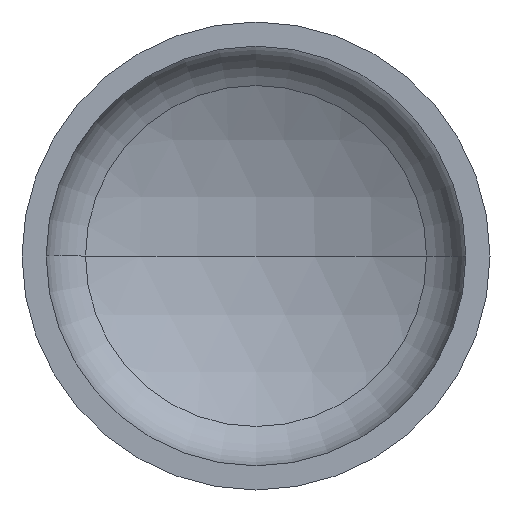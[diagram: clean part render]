
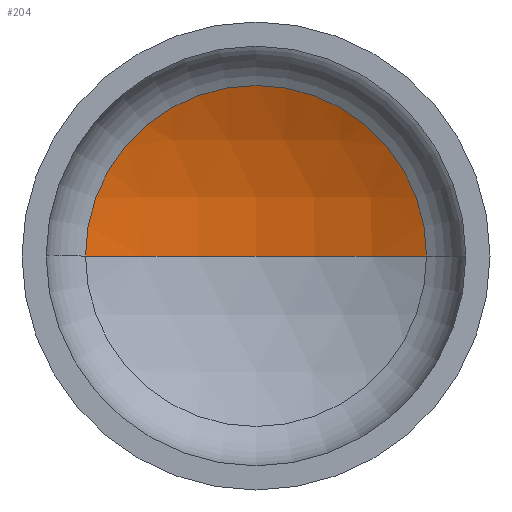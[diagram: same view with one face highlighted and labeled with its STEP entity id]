
A CAD part, front view. The second image highlights one B-rep face of the part: STEP entity #204.
In plain terms, the highlighted spherical face has radius 960 mm.
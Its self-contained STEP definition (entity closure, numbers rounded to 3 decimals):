
#6 = AXIS2_PLACEMENT_3D ( 'NONE', #184, #253, #71 ) ;
#15 = EDGE_LOOP ( 'NONE', ( #52, #32, #160 ) ) ;
#19 = AXIS2_PLACEMENT_3D ( 'NONE', #203, #56, #44 ) ;
#20 = AXIS2_PLACEMENT_3D ( 'NONE', #185, #355, #211 ) ;
#21 = AXIS2_PLACEMENT_3D ( 'NONE', #226, #227, #200 ) ;
#32 = ORIENTED_EDGE ( 'NONE', *, *, #62, .T. ) ;
#44 = DIRECTION ( 'NONE',  ( 1., 0., 0. ) ) ;
#52 = ORIENTED_EDGE ( 'NONE', *, *, #65, .F. ) ;
#56 = DIRECTION ( 'NONE',  ( 0., 0., 1. ) ) ;
#61 = EDGE_CURVE ( 'NONE', #113, #129, #376, .T. ) ;
#62 = EDGE_CURVE ( 'NONE', #102, #113, #306, .T. ) ;
#65 = EDGE_CURVE ( 'NONE', #102, #129, #187, .T. ) ;
#71 = DIRECTION ( 'NONE',  ( -1., 0., 0. ) ) ;
#102 = VERTEX_POINT ( 'NONE', #153 ) ;
#113 = VERTEX_POINT ( 'NONE', #201 ) ;
#129 = VERTEX_POINT ( 'NONE', #284 ) ;
#153 = CARTESIAN_POINT ( 'NONE',  ( 0., 390.061, 0. ) ) ;
#160 = ORIENTED_EDGE ( 'NONE', *, *, #61, .T. ) ;
#184 = CARTESIAN_POINT ( 'NONE',  ( 0., -569.939, 0. ) ) ;
#185 = CARTESIAN_POINT ( 'NONE',  ( 0., -569.939, 0. ) ) ;
#187 = CIRCLE ( 'NONE', #19, 960. ) ;
#200 = DIRECTION ( 'NONE',  ( 1., 0., 0. ) ) ;
#201 = CARTESIAN_POINT ( 'NONE',  ( 437.265, 284.695, 0. ) ) ;
#203 = CARTESIAN_POINT ( 'NONE',  ( 0., -569.939, 0. ) ) ;
#204 = ADVANCED_FACE ( 'NONE', ( #361 ), #293, .F. ) ;
#211 = DIRECTION ( 'NONE',  ( -1., 0., 0. ) ) ;
#226 = CARTESIAN_POINT ( 'NONE',  ( 0., 284.695, 0. ) ) ;
#227 = DIRECTION ( 'NONE',  ( 0., -1., 0. ) ) ;
#253 = DIRECTION ( 'NONE',  ( 0., 0., -1. ) ) ;
#284 = CARTESIAN_POINT ( 'NONE',  ( -437.265, 284.695, 0. ) ) ;
#293 = SPHERICAL_SURFACE ( 'NONE', #6, 960. ) ;
#306 = CIRCLE ( 'NONE', #20, 960. ) ;
#355 = DIRECTION ( 'NONE',  ( 0., 0., -1. ) ) ;
#361 = FACE_OUTER_BOUND ( 'NONE', #15, .T. ) ;
#376 = CIRCLE ( 'NONE', #21, 437.265 ) ;
